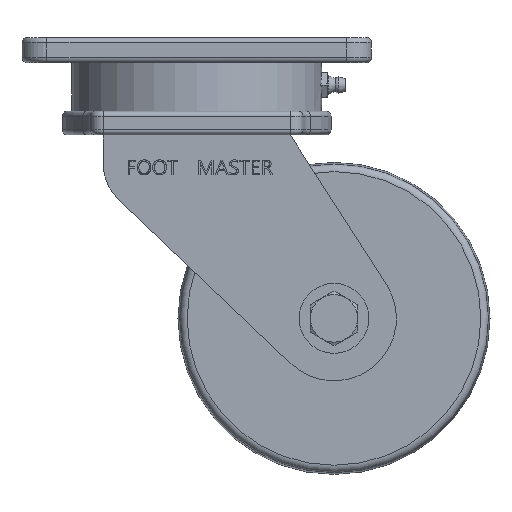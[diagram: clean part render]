
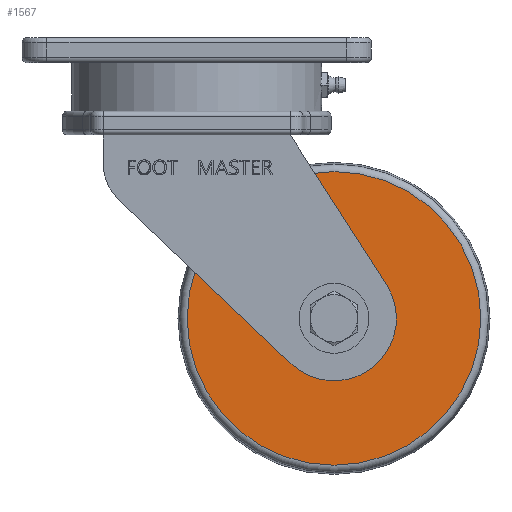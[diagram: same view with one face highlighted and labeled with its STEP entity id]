
A CAD part, front view. The second image highlights one B-rep face of the part: STEP entity #1567.
In plain terms, the highlighted planar face has unit normal (0, -1, 0).
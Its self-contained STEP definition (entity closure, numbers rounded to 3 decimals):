
#1105=CARTESIAN_POINT('',(48.,-41.5,-84.5));
#1106=VERTEX_POINT('',#1105);
#1107=CARTESIAN_POINT('',(55.,-41.5,-84.5));
#1108=DIRECTION('',(0.0,-1.0,0.0));
#1109=DIRECTION('',(1.0,0.0,0.0));
#1110=AXIS2_PLACEMENT_3D('',#1107,#1108,#1109);
#1111=CIRCLE('',#1110,7.);
#1112=EDGE_CURVE('',#1106,#1106,#1111,.T.);
#1144=CARTESIAN_POINT('',(113.823,-41.5,-84.5));
#1145=VERTEX_POINT('',#1144);
#1146=CARTESIAN_POINT('',(55.,-41.5,-84.5));
#1147=DIRECTION('',(0.0,-1.0,0.0));
#1148=DIRECTION('',(1.0,0.0,0.0));
#1149=AXIS2_PLACEMENT_3D('',#1146,#1147,#1148);
#1150=CIRCLE('',#1149,58.823);
#1151=EDGE_CURVE('',#1145,#1145,#1150,.T.);
#1556=CARTESIAN_POINT('',(87.911,-41.5,-84.5));
#1557=DIRECTION('',(0.0,-1.0,0.0));
#1558=DIRECTION('',(0.0,0.0,-1.0));
#1559=AXIS2_PLACEMENT_3D('',#1556,#1557,#1558);
#1560=PLANE('',#1559);
#1561=ORIENTED_EDGE('',*,*,#1151,.T.);
#1562=EDGE_LOOP('',(#1561));
#1563=FACE_OUTER_BOUND('',#1562,.T.);
#1564=ORIENTED_EDGE('',*,*,#1112,.F.);
#1565=EDGE_LOOP('',(#1564));
#1566=FACE_BOUND('',#1565,.T.);
#1567=ADVANCED_FACE('',(#1563,#1566),#1560,.T.);
